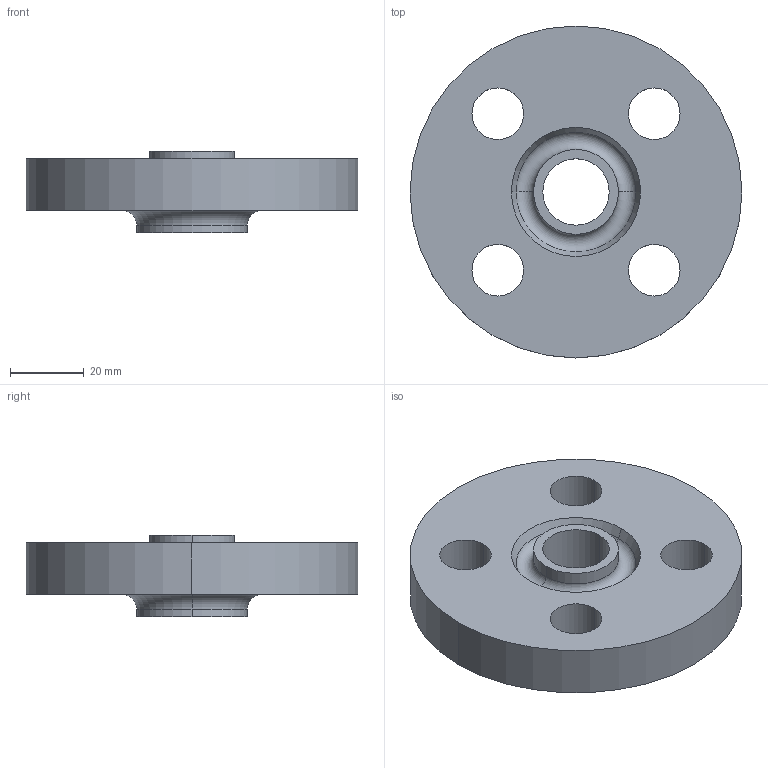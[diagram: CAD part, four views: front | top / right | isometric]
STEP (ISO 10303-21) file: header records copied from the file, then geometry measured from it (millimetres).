
FILE_DESCRIPTION (( 'STEP AP214' ), '1' );
FILE_NAME ('PN40 DN10 Type 12 - Type H Face.STEP', '2018-12-29T03:59:48', ( '' ), ( '' ), 'SwSTEP 2.0', 'SolidWorks 2019', '' );
FILE_SCHEMA (( 'AUTOMOTIVE_DESIGN' ));
Length unit declared in the file: millimetre
Products named in the file (1): PN40 DN10 Type 12 - Type H Face
Bounding box: 90 x 90 x 22 mm (x, y, z)
Volume: 78624.9 mm3; surface area: 19645 mm2
Topology: 1 solids, 1 shells, 26 faces, 60 edges, 38 vertices
Faces by surface type: cylinder 16, torus 4, plane 4, cone 2
Entity records: 812 total; most frequent: DIRECTION 156, CARTESIAN_POINT 125, ORIENTED_EDGE 120, AXIS2_PLACEMENT_3D 69, EDGE_CURVE 60, CIRCLE 42, VERTEX_POINT 38, EDGE_LOOP 38
